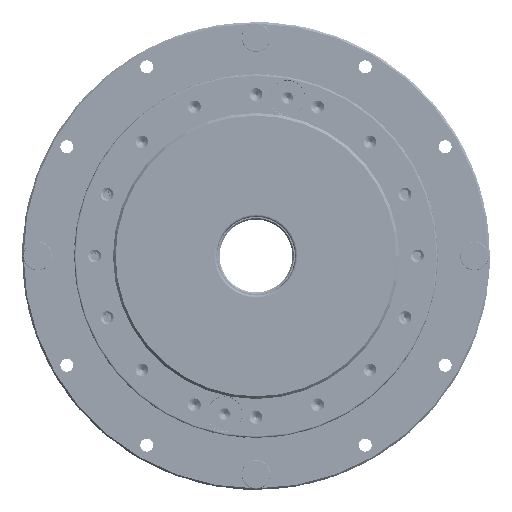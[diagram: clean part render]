
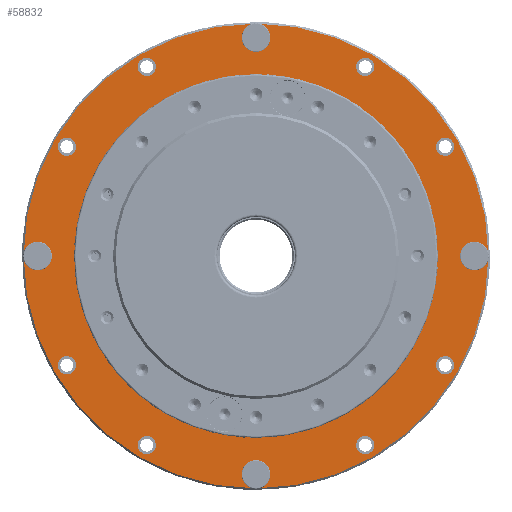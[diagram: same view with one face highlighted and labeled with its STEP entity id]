
A CAD part, left-side view. The second image highlights one B-rep face of the part: STEP entity #58832.
In plain terms, the highlighted planar face has unit normal (-1, 0, 0) as drawn and (0, 1, 0) by its records, which use the part's own axes.
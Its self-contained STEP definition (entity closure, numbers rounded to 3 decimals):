
#454 = DIRECTION ( 'NONE',  ( 0., 0., 1. ) ) ;
#910 = EDGE_LOOP ( 'NONE', ( #52185 ) ) ;
#1196 = CIRCLE ( 'NONE', #7569, 1.75 ) ;
#1863 = DIRECTION ( 'NONE',  ( 0., -1., 0. ) ) ;
#2129 = DIRECTION ( 'NONE',  ( 0., -1., 0. ) ) ;
#2253 = CARTESIAN_POINT ( 'NONE',  ( 21., 17.5, 36.373 ) ) ;
#2566 = DIRECTION ( 'NONE',  ( 0., -1., 0. ) ) ;
#3757 = DIRECTION ( 'NONE',  ( 0., 0., -1. ) ) ;
#5681 = FACE_OUTER_BOUND ( 'NONE', #56856, .T. ) ;
#7128 = CARTESIAN_POINT ( 'NONE',  ( 42., 17.5, 1.75 ) ) ;
#7495 = DIRECTION ( 'NONE',  ( 0., 0., 1. ) ) ;
#7569 = AXIS2_PLACEMENT_3D ( 'NONE', #68355, #73593, #454 ) ;
#8129 = AXIS2_PLACEMENT_3D ( 'NONE', #74774, #56769, #67985 ) ;
#9322 = EDGE_CURVE ( 'NONE', #67429, #67429, #21277, .T. ) ;
#9704 = ORIENTED_EDGE ( 'NONE', *, *, #23260, .T. ) ;
#10235 = CARTESIAN_POINT ( 'NONE',  ( 36.373, 17.5, -19.25 ) ) ;
#11036 = CARTESIAN_POINT ( 'NONE',  ( 0., 17.5, -33.75 ) ) ;
#11842 = DIRECTION ( 'NONE',  ( 0., -1., 0. ) ) ;
#12453 = DIRECTION ( 'NONE',  ( 0., 1., 0. ) ) ;
#12652 = DIRECTION ( 'NONE',  ( 0., 0., 1. ) ) ;
#12736 = AXIS2_PLACEMENT_3D ( 'NONE', #58440, #2129, #14913 ) ;
#12878 = EDGE_LOOP ( 'NONE', ( #9704 ) ) ;
#13218 = CIRCLE ( 'NONE', #64260, 1.75 ) ;
#13237 = CARTESIAN_POINT ( 'NONE',  ( -44.7, 17.5, 0. ) ) ;
#13907 = CARTESIAN_POINT ( 'NONE',  ( 0., 17.5, 0. ) ) ;
#14064 = EDGE_CURVE ( 'NONE', #45838, #45838, #49528, .T. ) ;
#14913 = DIRECTION ( 'NONE',  ( 0., 0., 1. ) ) ;
#15135 = EDGE_LOOP ( 'NONE', ( #61865 ) ) ;
#15432 = CIRCLE ( 'NONE', #26984, 1.75 ) ;
#15987 = ORIENTED_EDGE ( 'NONE', *, *, #35736, .T. ) ;
#16138 = DIRECTION ( 'NONE',  ( 0., 0., 1. ) ) ;
#16499 = AXIS2_PLACEMENT_3D ( 'NONE', #42916, #78533, #23789 ) ;
#16944 = CARTESIAN_POINT ( 'NONE',  ( 42., 17.5, 0. ) ) ;
#18016 = EDGE_CURVE ( 'NONE', #28272, #28272, #26643, .T. ) ;
#18661 = CARTESIAN_POINT ( 'NONE',  ( -42., 17.5, 0. ) ) ;
#19510 = DIRECTION ( 'NONE',  ( 0., 0., 1. ) ) ;
#20046 = ORIENTED_EDGE ( 'NONE', *, *, #72983, .T. ) ;
#20187 = CARTESIAN_POINT ( 'NONE',  ( 0., 17.5, 0. ) ) ;
#20369 = ORIENTED_EDGE ( 'NONE', *, *, #51543, .T. ) ;
#20463 = CIRCLE ( 'NONE', #26856, 1.75 ) ;
#20627 = EDGE_CURVE ( 'NONE', #46617, #46617, #75279, .T. ) ;
#20902 = CIRCLE ( 'NONE', #8129, 1.75 ) ;
#21277 = CIRCLE ( 'NONE', #59529, 44.7 ) ;
#21336 = EDGE_LOOP ( 'NONE', ( #50515 ) ) ;
#22420 = ORIENTED_EDGE ( 'NONE', *, *, #20627, .T. ) ;
#23260 = EDGE_CURVE ( 'NONE', #60959, #60959, #15432, .T. ) ;
#23496 = AXIS2_PLACEMENT_3D ( 'NONE', #13237, #12453, #67185 ) ;
#23789 = DIRECTION ( 'NONE',  ( 0., 0., 1. ) ) ;
#23840 = CIRCLE ( 'NONE', #41730, 1.75 ) ;
#24106 = FACE_BOUND ( 'NONE', #70849, .T. ) ;
#24308 = DIRECTION ( 'NONE',  ( 0., -1., 0. ) ) ;
#24665 = DIRECTION ( 'NONE',  ( 0., 0., 1. ) ) ;
#25512 = DIRECTION ( 'NONE',  ( 0., -1., 0. ) ) ;
#26444 = PLANE ( 'NONE',  #23496 ) ;
#26643 = CIRCLE ( 'NONE', #30518, 33.75 ) ;
#26856 = AXIS2_PLACEMENT_3D ( 'NONE', #18661, #24308, #12652 ) ;
#26984 = AXIS2_PLACEMENT_3D ( 'NONE', #42231, #11842, #50067 ) ;
#28272 = VERTEX_POINT ( 'NONE', #11036 ) ;
#28979 = EDGE_LOOP ( 'NONE', ( #68677 ) ) ;
#29353 = AXIS2_PLACEMENT_3D ( 'NONE', #30746, #61861, #7495 ) ;
#29865 = CARTESIAN_POINT ( 'NONE',  ( -36.373, 17.5, -21. ) ) ;
#30061 = CARTESIAN_POINT ( 'NONE',  ( -36.373, 17.5, 22.75 ) ) ;
#30084 = FACE_BOUND ( 'NONE', #910, .T. ) ;
#30153 = VERTEX_POINT ( 'NONE', #48102 ) ;
#30452 = CARTESIAN_POINT ( 'NONE',  ( 21., 17.5, -34.623 ) ) ;
#30477 = FACE_BOUND ( 'NONE', #34093, .T. ) ;
#30518 = AXIS2_PLACEMENT_3D ( 'NONE', #20187, #2566, #3757 ) ;
#30683 = CARTESIAN_POINT ( 'NONE',  ( 0., 17.5, -40.25 ) ) ;
#30746 = CARTESIAN_POINT ( 'NONE',  ( 36.373, 17.5, 21. ) ) ;
#30990 = AXIS2_PLACEMENT_3D ( 'NONE', #49672, #44475, #60870 ) ;
#31852 = CARTESIAN_POINT ( 'NONE',  ( 36.373, 17.5, 22.75 ) ) ;
#32397 = ORIENTED_EDGE ( 'NONE', *, *, #69956, .T. ) ;
#34093 = EDGE_LOOP ( 'NONE', ( #48311 ) ) ;
#35736 = EDGE_CURVE ( 'NONE', #30153, #30153, #1196, .T. ) ;
#36476 = FACE_BOUND ( 'NONE', #63782, .T. ) ;
#40369 = EDGE_CURVE ( 'NONE', #50068, #50068, #20463, .T. ) ;
#40923 = DIRECTION ( 'NONE',  ( 0., -1., 0. ) ) ;
#41091 = VERTEX_POINT ( 'NONE', #65827 ) ;
#41730 = AXIS2_PLACEMENT_3D ( 'NONE', #16944, #40923, #16138 ) ;
#42074 = FACE_BOUND ( 'NONE', #21336, .T. ) ;
#42231 = CARTESIAN_POINT ( 'NONE',  ( -21., 17.5, 36.373 ) ) ;
#42459 = FACE_BOUND ( 'NONE', #78590, .T. ) ;
#42916 = CARTESIAN_POINT ( 'NONE',  ( 0., 17.5, -42. ) ) ;
#43005 = DIRECTION ( 'NONE',  ( 0., -1., 0. ) ) ;
#43439 = VERTEX_POINT ( 'NONE', #30683 ) ;
#43504 = DIRECTION ( 'NONE',  ( 0., 0., -1. ) ) ;
#44475 = DIRECTION ( 'NONE',  ( 0., -1., 0. ) ) ;
#45141 = EDGE_LOOP ( 'NONE', ( #22420 ) ) ;
#45184 = CIRCLE ( 'NONE', #30990, 1.75 ) ;
#45838 = VERTEX_POINT ( 'NONE', #57011 ) ;
#46617 = VERTEX_POINT ( 'NONE', #10235 ) ;
#47783 = EDGE_LOOP ( 'NONE', ( #20046 ) ) ;
#48102 = CARTESIAN_POINT ( 'NONE',  ( 0., 17.5, 43.75 ) ) ;
#48311 = ORIENTED_EDGE ( 'NONE', *, *, #64569, .T. ) ;
#48578 = EDGE_CURVE ( 'NONE', #66395, #66395, #20902, .T. ) ;
#48702 = ORIENTED_EDGE ( 'NONE', *, *, #9322, .T. ) ;
#49070 = EDGE_CURVE ( 'NONE', #61176, #61176, #45184, .T. ) ;
#49528 = CIRCLE ( 'NONE', #59761, 1.75 ) ;
#49672 = CARTESIAN_POINT ( 'NONE',  ( 21., 17.5, -36.373 ) ) ;
#50067 = DIRECTION ( 'NONE',  ( 0., 0., 1. ) ) ;
#50068 = VERTEX_POINT ( 'NONE', #62456 ) ;
#50515 = ORIENTED_EDGE ( 'NONE', *, *, #14064, .T. ) ;
#51543 = EDGE_CURVE ( 'NONE', #73971, #73971, #13218, .T. ) ;
#52185 = ORIENTED_EDGE ( 'NONE', *, *, #40369, .T. ) ;
#52188 = CIRCLE ( 'NONE', #16499, 1.75 ) ;
#54001 = CARTESIAN_POINT ( 'NONE',  ( 0., 17.5, -44.7 ) ) ;
#54415 = FACE_BOUND ( 'NONE', #15135, .T. ) ;
#54565 = CIRCLE ( 'NONE', #62212, 1.75 ) ;
#54810 = FACE_BOUND ( 'NONE', #45141, .T. ) ;
#55014 = ORIENTED_EDGE ( 'NONE', *, *, #49070, .T. ) ;
#55016 = VERTEX_POINT ( 'NONE', #31852 ) ;
#55191 = FACE_BOUND ( 'NONE', #69568, .T. ) ;
#55804 = DIRECTION ( 'NONE',  ( 0., 0., 1. ) ) ;
#56769 = DIRECTION ( 'NONE',  ( 0., -1., 0. ) ) ;
#56856 = EDGE_LOOP ( 'NONE', ( #48702 ) ) ;
#57011 = CARTESIAN_POINT ( 'NONE',  ( -21., 17.5, -34.623 ) ) ;
#58440 = CARTESIAN_POINT ( 'NONE',  ( 36.373, 17.5, -21. ) ) ;
#58832 = ADVANCED_FACE ( 'NONE', ( #5681, #72437, #42074, #66417, #30084, #54415, #78841, #24106, #42459, #36476, #30477, #54810, #55191, #74378 ), #26444, .T. ) ;
#59529 = AXIS2_PLACEMENT_3D ( 'NONE', #13907, #73876, #43504 ) ;
#59761 = AXIS2_PLACEMENT_3D ( 'NONE', #67826, #25512, #19510 ) ;
#60350 = EDGE_LOOP ( 'NONE', ( #32397 ) ) ;
#60870 = DIRECTION ( 'NONE',  ( 0., 0., 1. ) ) ;
#60959 = VERTEX_POINT ( 'NONE', #73369 ) ;
#61176 = VERTEX_POINT ( 'NONE', #30452 ) ;
#61861 = DIRECTION ( 'NONE',  ( 0., -1., 0. ) ) ;
#61865 = ORIENTED_EDGE ( 'NONE', *, *, #48578, .T. ) ;
#61892 = VERTEX_POINT ( 'NONE', #7128 ) ;
#62212 = AXIS2_PLACEMENT_3D ( 'NONE', #29865, #43005, #24665 ) ;
#62456 = CARTESIAN_POINT ( 'NONE',  ( -42., 17.5, 1.75 ) ) ;
#63764 = CIRCLE ( 'NONE', #29353, 1.75 ) ;
#63782 = EDGE_LOOP ( 'NONE', ( #63861 ) ) ;
#63861 = ORIENTED_EDGE ( 'NONE', *, *, #73718, .T. ) ;
#64260 = AXIS2_PLACEMENT_3D ( 'NONE', #2253, #1863, #55804 ) ;
#64569 = EDGE_CURVE ( 'NONE', #61892, #61892, #23840, .T. ) ;
#65827 = CARTESIAN_POINT ( 'NONE',  ( -36.373, 17.5, -19.25 ) ) ;
#66395 = VERTEX_POINT ( 'NONE', #30061 ) ;
#66417 = FACE_BOUND ( 'NONE', #60350, .T. ) ;
#67185 = DIRECTION ( 'NONE',  ( 0., 0., 1. ) ) ;
#67429 = VERTEX_POINT ( 'NONE', #54001 ) ;
#67826 = CARTESIAN_POINT ( 'NONE',  ( -21., 17.5, -36.373 ) ) ;
#67985 = DIRECTION ( 'NONE',  ( 0., 0., 1. ) ) ;
#68355 = CARTESIAN_POINT ( 'NONE',  ( 0., 17.5, 42. ) ) ;
#68677 = ORIENTED_EDGE ( 'NONE', *, *, #18016, .T. ) ;
#69568 = EDGE_LOOP ( 'NONE', ( #55014 ) ) ;
#69956 = EDGE_CURVE ( 'NONE', #41091, #41091, #54565, .T. ) ;
#70849 = EDGE_LOOP ( 'NONE', ( #15987 ) ) ;
#72437 = FACE_BOUND ( 'NONE', #47783, .T. ) ;
#72983 = EDGE_CURVE ( 'NONE', #43439, #43439, #52188, .T. ) ;
#73369 = CARTESIAN_POINT ( 'NONE',  ( -21., 17.5, 38.123 ) ) ;
#73593 = DIRECTION ( 'NONE',  ( 0., -1., 0. ) ) ;
#73718 = EDGE_CURVE ( 'NONE', #55016, #55016, #63764, .T. ) ;
#73876 = DIRECTION ( 'NONE',  ( 0., 1., 0. ) ) ;
#73971 = VERTEX_POINT ( 'NONE', #74356 ) ;
#74356 = CARTESIAN_POINT ( 'NONE',  ( 21., 17.5, 38.123 ) ) ;
#74378 = FACE_BOUND ( 'NONE', #28979, .T. ) ;
#74774 = CARTESIAN_POINT ( 'NONE',  ( -36.373, 17.5, 21. ) ) ;
#75279 = CIRCLE ( 'NONE', #12736, 1.75 ) ;
#78533 = DIRECTION ( 'NONE',  ( 0., -1., 0. ) ) ;
#78590 = EDGE_LOOP ( 'NONE', ( #20369 ) ) ;
#78841 = FACE_BOUND ( 'NONE', #12878, .T. ) ;
